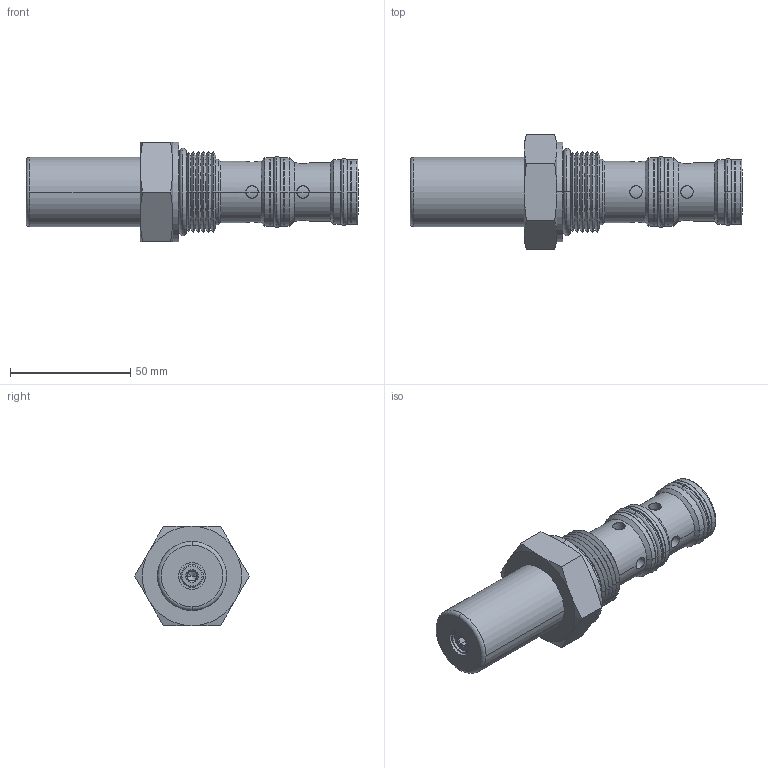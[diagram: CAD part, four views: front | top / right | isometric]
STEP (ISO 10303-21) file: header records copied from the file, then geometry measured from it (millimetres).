
FILE_DESCRIPTION((''),'2;1');
FILE_NAME('U:\Solid model CD\Solid model full\Mechanical\STEP\SKPRP0I-3D Full.stp','2008-07-29T10:01:05',('Dan'),(''),'Autodesk Inventor 9','Autodesk Inventor 9','');
FILE_SCHEMA(('AUTOMOTIVE_DESIGN { 1 0 10303 214 1 1 1 1 }'));
Length unit declared in the file: inch
Products named in the file (8): SKPRP0I-3D Full; SKPRP0I-3D Full1; SKPRP0I-3D Full2; SKPRP0I-3D Full3; SKPRP0I-3D Full4; SKPRP0I-3D Full5; SKPRP0I-3D Full6; SKPRP0I-3D Full7
Assembly tree (7 placements, depth 2):
  SKPRP0I-3D Full
    SKPRP0I-3D Full1
    SKPRP0I-3D Full2
    SKPRP0I-3D Full3
    SKPRP0I-3D Full4
    SKPRP0I-3D Full5
    SKPRP0I-3D Full6
    SKPRP0I-3D Full7
Bounding box: 137.92 x 47.66 x 41.27 mm (x, y, z)
Volume: 95279.2 mm3; surface area: 22628.7 mm2
Topology: 7 solids, 7 shells, 188 faces, 411 edges, 250 vertices
Faces by surface type: cylinder 80, cone 54, plane 36, torus 18
Entity records: 5805 total; most frequent: CARTESIAN_POINT 1486, DIRECTION 928, ORIENTED_EDGE 818, EDGE_CURVE 409, AXIS2_PLACEMENT_3D 396, VERTEX_POINT 250, EDGE_LOOP 215, CIRCLE 193
